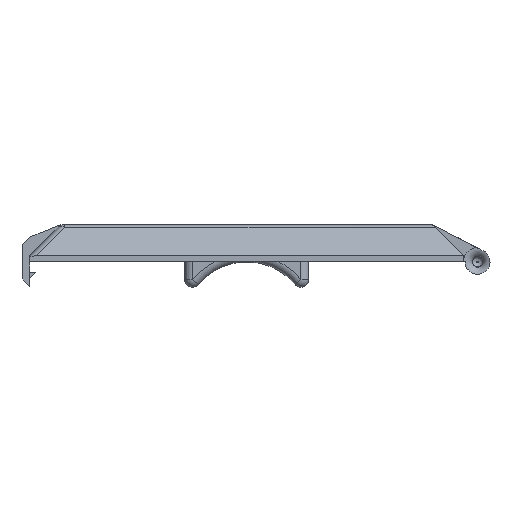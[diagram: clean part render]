
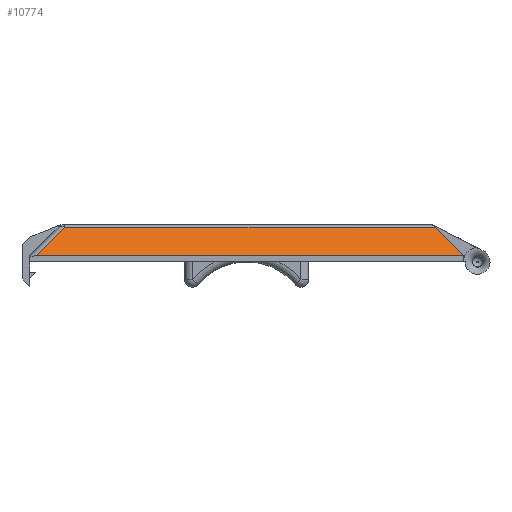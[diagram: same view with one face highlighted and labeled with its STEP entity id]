
A CAD part, front view. The second image highlights one B-rep face of the part: STEP entity #10774.
In plain terms, the highlighted planar face has unit normal (0, -0.707, 0.707).
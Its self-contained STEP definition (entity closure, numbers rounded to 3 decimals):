
#483=PLANE('',#11244);
#1072=FACE_OUTER_BOUND('',#1702,.T.);
#1702=EDGE_LOOP('',(#9790,#9791,#9792,#9793));
#2164=LINE('',#16892,#3159);
#2167=LINE('',#16901,#3162);
#2663=LINE('',#20379,#3658);
#2674=LINE('',#20398,#3669);
#3159=VECTOR('',#11952,10.);
#3162=VECTOR('',#11963,10.);
#3658=VECTOR('',#13035,10.);
#3669=VECTOR('',#13058,10.);
#4808=VERTEX_POINT('',#16879);
#4812=VERTEX_POINT('',#16890);
#4814=VERTEX_POINT('',#16897);
#5203=VERTEX_POINT('',#20378);
#6013=EDGE_CURVE('',#4812,#4808,#2164,.T.);
#6018=EDGE_CURVE('',#4808,#4814,#2167,.T.);
#6746=EDGE_CURVE('',#5203,#4814,#2663,.T.);
#6757=EDGE_CURVE('',#4812,#5203,#2674,.T.);
#9790=ORIENTED_EDGE('',*,*,#6013,.F.);
#9791=ORIENTED_EDGE('',*,*,#6757,.T.);
#9792=ORIENTED_EDGE('',*,*,#6746,.T.);
#9793=ORIENTED_EDGE('',*,*,#6018,.F.);
#10774=ADVANCED_FACE('',(#1072),#483,.F.);
#11244=AXIS2_PLACEMENT_3D('',#20397,#13056,#13057);
#11952=DIRECTION('',(0.577,0.577,0.577));
#11963=DIRECTION('',(1.,0.,0.));
#13035=DIRECTION('',(-0.577,0.577,0.577));
#13056=DIRECTION('center_axis',(0.,0.707,
-0.707));
#13057=DIRECTION('ref_axis',(-1.,0.,0.));
#13058=DIRECTION('',(1.,0.,0.));
#16879=CARTESIAN_POINT('',(-58.757,-70.879,51.121));
#16890=CARTESIAN_POINT('',(-67.879,-80.,42.));
#16892=CARTESIAN_POINT('',(-45.252,-57.374,64.626));
#16897=CARTESIAN_POINT('',(60.879,-70.879,51.121));
#16901=CARTESIAN_POINT('',(35.,-70.879,51.121));
#20378=CARTESIAN_POINT('',(70.,-80.,42.));
#20379=CARTESIAN_POINT('',(70.,-80.,42.));
#20397=CARTESIAN_POINT('Origin',(70.,-80.,42.));
#20398=CARTESIAN_POINT('',(70.,-80.,42.));
